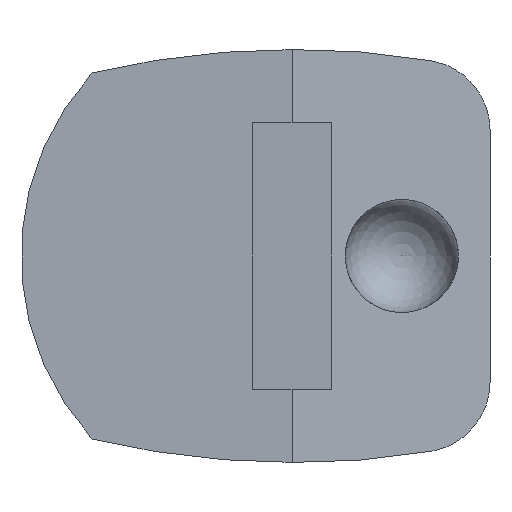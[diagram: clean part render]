
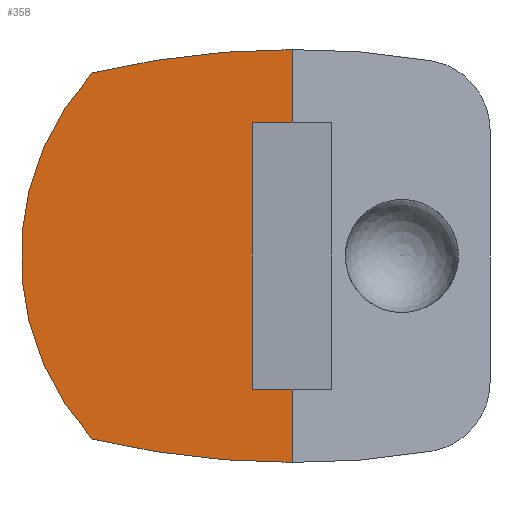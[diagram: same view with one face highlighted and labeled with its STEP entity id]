
A CAD part, left-side view. The second image highlights one B-rep face of the part: STEP entity #358.
In plain terms, the highlighted planar face has unit normal (-1, 0, 0).
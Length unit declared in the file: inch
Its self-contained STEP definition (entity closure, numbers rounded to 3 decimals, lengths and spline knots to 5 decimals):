
#26=CIRCLE('',#375,1.30321);
#29=CIRCLE('',#379,1.30321);
#30=CIRCLE('',#381,0.40697);
#83=FACE_OUTER_BOUND('',#110,.T.);
#110=EDGE_LOOP('',(#316,#317,#318,#319,#320,#321,#322,#323));
#114=LINE('',#445,#131);
#124=LINE('',#464,#141);
#126=LINE('',#468,#143);
#127=LINE('',#471,#144);
#129=LINE('',#506,#146);
#131=VECTOR('',#387,0.3937);
#141=VECTOR('',#401,0.3937);
#143=VECTOR('',#407,0.3937);
#144=VECTOR('',#410,0.3937);
#146=VECTOR('',#412,0.3937);
#147=VERTEX_POINT('',#441);
#149=VERTEX_POINT('',#444);
#154=VERTEX_POINT('',#458);
#156=VERTEX_POINT('',#462);
#157=VERTEX_POINT('',#470);
#162=VERTEX_POINT('',#501);
#173=VERTEX_POINT('',#756);
#183=VERTEX_POINT('',#1111);
#185=EDGE_CURVE('',#149,#147,#114,.T.);
#195=EDGE_CURVE('',#154,#156,#124,.T.);
#197=EDGE_CURVE('',#156,#149,#126,.T.);
#198=EDGE_CURVE('',#157,#154,#127,.T.);
#204=EDGE_CURVE('',#147,#162,#129,.T.);
#216=EDGE_CURVE('',#173,#162,#26,.T.);
#230=EDGE_CURVE('',#157,#183,#29,.T.);
#233=EDGE_CURVE('',#183,#173,#30,.T.);
#316=ORIENTED_EDGE('',*,*,#185,.T.);
#317=ORIENTED_EDGE('',*,*,#204,.T.);
#318=ORIENTED_EDGE('',*,*,#216,.F.);
#319=ORIENTED_EDGE('',*,*,#233,.F.);
#320=ORIENTED_EDGE('',*,*,#230,.F.);
#321=ORIENTED_EDGE('',*,*,#198,.T.);
#322=ORIENTED_EDGE('',*,*,#195,.T.);
#323=ORIENTED_EDGE('',*,*,#197,.T.);
#341=PLANE('',#380);
#358=ADVANCED_FACE('',(#83),#341,.F.);
#375=AXIS2_PLACEMENT_3D('',#767,#425,#426);
#379=AXIS2_PLACEMENT_3D('',#1112,#433,#434);
#380=AXIS2_PLACEMENT_3D('',#1129,#435,#436);
#381=AXIS2_PLACEMENT_3D('',#1130,#437,#438);
#387=DIRECTION('',(0.,-1.,0.));
#401=DIRECTION('',(0.,1.,0.));
#407=DIRECTION('',(0.,0.,1.));
#410=DIRECTION('',(0.,0.,1.));
#412=DIRECTION('',(0.,0.,1.));
#425=DIRECTION('center_axis',(1.,0.,0.));
#426=DIRECTION('ref_axis',(0.,0.23,0.973));
#433=DIRECTION('center_axis',(1.,0.,0.));
#434=DIRECTION('ref_axis',(0.,-0.23,-0.973));
#435=DIRECTION('center_axis',(1.,0.,0.));
#436=DIRECTION('ref_axis',(0.,0.,-1.));
#437=DIRECTION('center_axis',(1.,0.,0.));
#438=DIRECTION('ref_axis',(0.,0.737,-0.676));
#441=CARTESIAN_POINT('',(0.,-0.2,0.2));
#444=CARTESIAN_POINT('',(0.,-0.14,0.2));
#445=CARTESIAN_POINT('',(0.,-0.18943,0.2));
#458=CARTESIAN_POINT('',(0.,-0.2,-0.2));
#462=CARTESIAN_POINT('',(0.,-0.14,-0.2));
#464=CARTESIAN_POINT('',(0.,-0.18943,-0.2));
#468=CARTESIAN_POINT('',(0.,-0.14,0.));
#470=CARTESIAN_POINT('',(0.,-0.2,-0.31));
#471=CARTESIAN_POINT('',(0.,-0.2,0.));
#501=CARTESIAN_POINT('',(0.,-0.2,0.31));
#506=CARTESIAN_POINT('',(0.,-0.2,0.));
#756=CARTESIAN_POINT('',(0.,0.1,0.275));
#767=CARTESIAN_POINT('Origin',(0.,-0.2,-0.99321));
#1111=CARTESIAN_POINT('',(0.,0.1,-0.275));
#1112=CARTESIAN_POINT('Origin',(0.,-0.2,0.99321));
#1129=CARTESIAN_POINT('Origin',(0.,-0.17887,
0.));
#1130=CARTESIAN_POINT('Origin',(0.,-0.2,0.));
